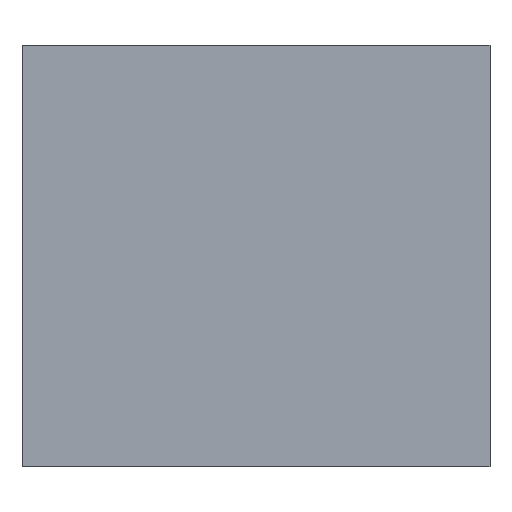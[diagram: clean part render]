
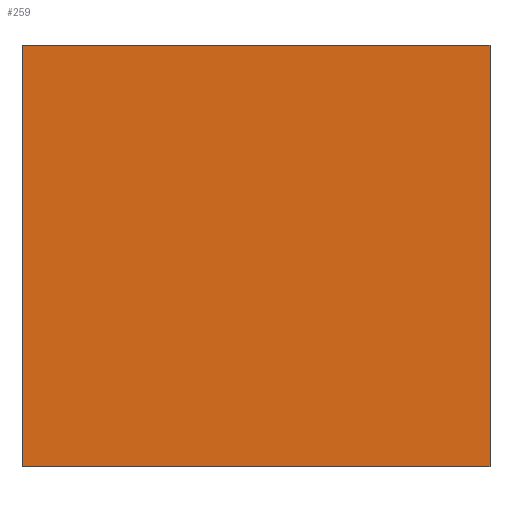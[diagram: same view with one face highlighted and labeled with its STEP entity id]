
A CAD part, front view. The second image highlights one B-rep face of the part: STEP entity #259.
In plain terms, the highlighted planar face has unit normal (0, -1, 0).
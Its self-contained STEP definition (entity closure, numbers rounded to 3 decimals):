
#23 = VECTOR ( 'NONE', #44, 1000. ) ;
#33 = ORIENTED_EDGE ( 'NONE', *, *, #231, .T. ) ;
#37 = EDGE_LOOP ( 'NONE', ( #33, #219, #335, #333 ) ) ;
#41 = CARTESIAN_POINT ( 'NONE',  ( 5., 1., 4.5 ) ) ;
#42 = EDGE_CURVE ( 'NONE', #142, #78, #58, .T. ) ;
#44 = DIRECTION ( 'NONE',  ( 0., 0., 1. ) ) ;
#47 = PLANE ( 'NONE',  #233 ) ;
#54 = EDGE_CURVE ( 'NONE', #78, #145, #64, .T. ) ;
#55 = EDGE_CURVE ( 'NONE', #90, #145, #290, .T. ) ;
#58 = LINE ( 'NONE', #136, #291 ) ;
#59 = VECTOR ( 'NONE', #140, 1000. ) ;
#64 = LINE ( 'NONE', #303, #179 ) ;
#72 = CARTESIAN_POINT ( 'NONE',  ( 5., 1., 4.5 ) ) ;
#78 = VERTEX_POINT ( 'NONE', #281 ) ;
#90 = VERTEX_POINT ( 'NONE', #72 ) ;
#95 = DIRECTION ( 'NONE',  ( 0., 0., 1. ) ) ;
#100 = CARTESIAN_POINT ( 'NONE',  ( 5., 1., -5.5 ) ) ;
#103 = DIRECTION ( 'NONE',  ( 0., 1., 0. ) ) ;
#121 = DIRECTION ( 'NONE',  ( -1., 0., 0. ) ) ;
#127 = FACE_OUTER_BOUND ( 'NONE', #37, .T. ) ;
#136 = CARTESIAN_POINT ( 'NONE',  ( 5., 1., -4.5 ) ) ;
#140 = DIRECTION ( 'NONE',  ( -1., 0., 0. ) ) ;
#142 = VERTEX_POINT ( 'NONE', #176 ) ;
#145 = VERTEX_POINT ( 'NONE', #310 ) ;
#165 = DIRECTION ( 'NONE',  ( -1., 0., 0. ) ) ;
#176 = CARTESIAN_POINT ( 'NONE',  ( 5., 1., -4.5 ) ) ;
#179 = VECTOR ( 'NONE', #95, 1000. ) ;
#219 = ORIENTED_EDGE ( 'NONE', *, *, #55, .T. ) ;
#228 = CARTESIAN_POINT ( 'NONE',  ( 5., 1., -5.5 ) ) ;
#231 = EDGE_CURVE ( 'NONE', #142, #90, #240, .T. ) ;
#233 = AXIS2_PLACEMENT_3D ( 'NONE', #100, #103, #121 ) ;
#240 = LINE ( 'NONE', #228, #23 ) ;
#259 = ADVANCED_FACE ( 'NONE', ( #127 ), #47, .F. ) ;
#281 = CARTESIAN_POINT ( 'NONE',  ( -5., 1., -4.5 ) ) ;
#290 = LINE ( 'NONE', #41, #59 ) ;
#291 = VECTOR ( 'NONE', #165, 1000. ) ;
#303 = CARTESIAN_POINT ( 'NONE',  ( -5., 1., -5.5 ) ) ;
#310 = CARTESIAN_POINT ( 'NONE',  ( -5., 1., 4.5 ) ) ;
#333 = ORIENTED_EDGE ( 'NONE', *, *, #42, .F. ) ;
#335 = ORIENTED_EDGE ( 'NONE', *, *, #54, .F. ) ;
